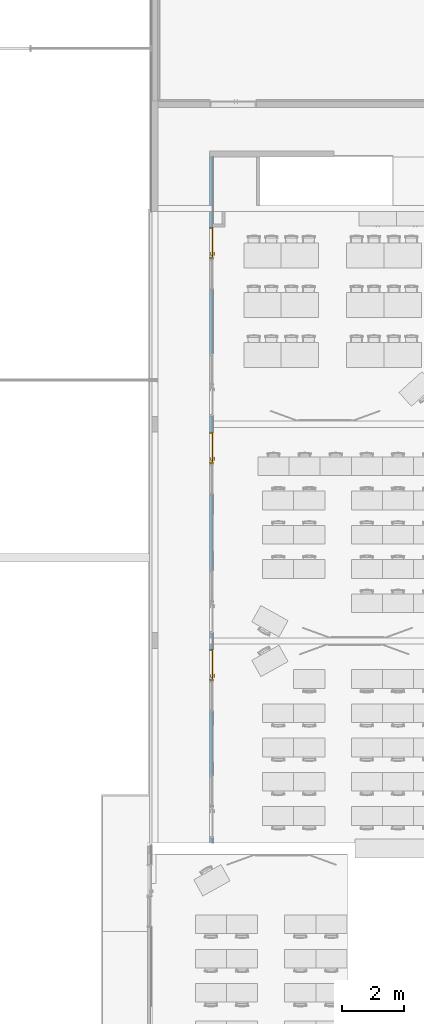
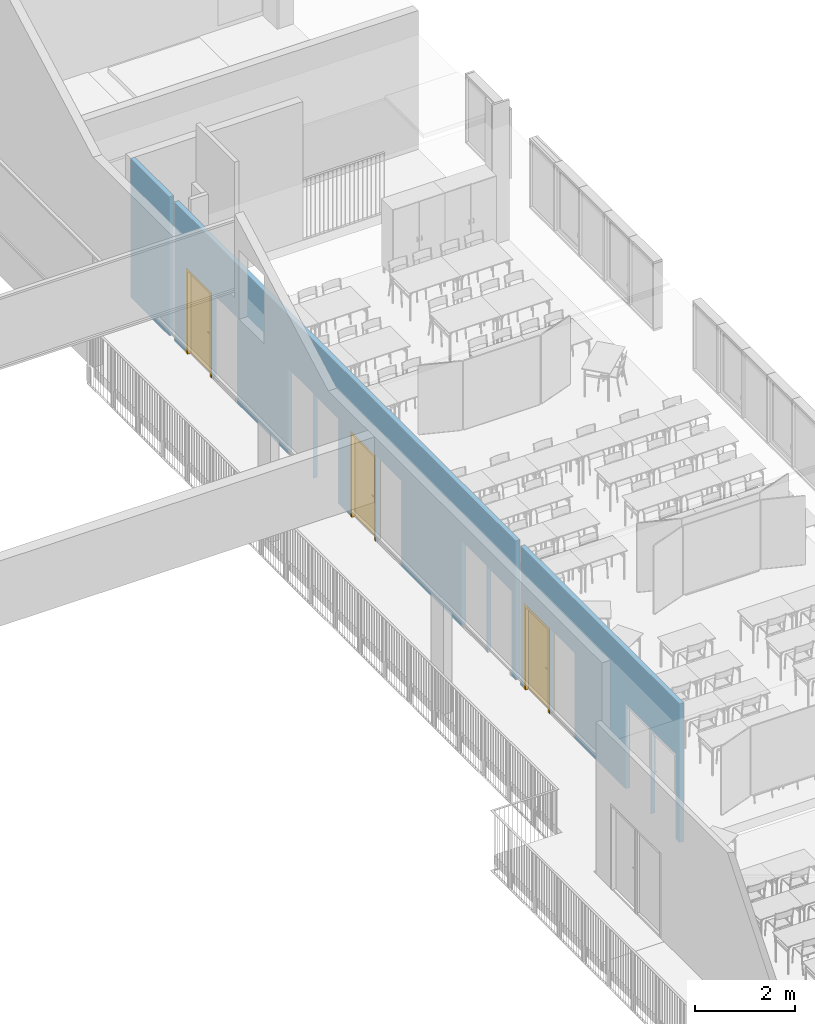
# One storey, part 31 of 44: 3 doors, 6 openings, plus 1 element that does not belong to this part.
"""IFC2X3 building model written with IfcOpenShell, lengths in centimetres."""

from ifc_helpers import new_model, entity, si_unit, converted_unit, derived_unit, direction, frame, frame_2d, origin, place, context, subcontext, project, spatial, rectangle, extrude, faceted_brep, source, transform, mapped, material, material_list, layer, layer_set, type_object, type_shapes, element, fill, save


model = new_model("IFC2X3")

# Units and contexts
model_context = context("Model", 3, precision=0.001, world=origin(), true_north=direction((6.12303176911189e-17, 1.0)))
body_context = subcontext(model_context, "Body", "Model", "MODEL_VIEW")
ifc_project = project(units=[si_unit("LENGTHUNIT", "METRE", prefix="CENTI"), si_unit("AREAUNIT", "SQUARE_METRE"), si_unit("VOLUMEUNIT", "CUBIC_METRE"), converted_unit("PLANEANGLEUNIT", "DEGREE", entity("IfcRatioMeasure", 0.0174532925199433), si_unit("PLANEANGLEUNIT", "RADIAN"), dimensions=[0, 0, 0, 0, 0, 0, 0]), si_unit("MASSUNIT", "GRAM", prefix="KILO"), si_unit("TIMEUNIT", "SECOND"), si_unit("FREQUENCYUNIT", "HERTZ"), si_unit("THERMODYNAMICTEMPERATUREUNIT", "DEGREE_CELSIUS"), derived_unit("THERMALTRANSMITTANCEUNIT", [(si_unit("MASSUNIT", "GRAM", prefix="KILO"), 1), (si_unit("THERMODYNAMICTEMPERATUREUNIT", "KELVIN"), -1), (si_unit("TIMEUNIT", "SECOND"), -3)]), derived_unit("VOLUMETRICFLOWRATEUNIT", [(si_unit("LENGTHUNIT", "METRE"), 3), (si_unit("TIMEUNIT", "SECOND"), -1)]), si_unit("ELECTRICCURRENTUNIT", "AMPERE"), si_unit("ELECTRICVOLTAGEUNIT", "VOLT"), si_unit("POWERUNIT", "WATT"), si_unit("FORCEUNIT", "NEWTON", prefix="KILO"), si_unit("ILLUMINANCEUNIT", "LUX"), si_unit("LUMINOUSFLUXUNIT", "LUMEN"), si_unit("LUMINOUSINTENSITYUNIT", "CANDELA"), derived_unit("USERDEFINED", [(si_unit("MASSUNIT", "GRAM", prefix="KILO"), -1), (si_unit("LENGTHUNIT", "METRE"), -2), (si_unit("TIMEUNIT", "SECOND"), 3), (si_unit("LUMINOUSFLUXUNIT", "LUMEN"), 1)]), derived_unit("LINEARVELOCITYUNIT", [(si_unit("LENGTHUNIT", "METRE"), 1), (si_unit("TIMEUNIT", "SECOND"), -1)]), si_unit("PRESSUREUNIT", "PASCAL"), derived_unit("USERDEFINED", [(si_unit("LENGTHUNIT", "METRE"), -2), (si_unit("MASSUNIT", "GRAM", prefix="KILO"), 1), (si_unit("TIMEUNIT", "SECOND"), -2)])], contexts=[model_context])

# Site, building, storey
site_placement = place(None, frame((8.62739174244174, -249.285249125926, 0.0)))
site = spatial("IfcSite", under=ifc_project, at=site_placement, Name="Default", CompositionType="ELEMENT")
building_placement = place(site_placement, origin())
building = spatial("IfcBuilding", under=site, at=building_placement, CompositionType="ELEMENT")
storey_placement = place(building_placement, frame((0.0, 0.0, 343.0)))
storey = spatial("IfcBuildingStorey", under=building, at=storey_placement, Name="R+1", CompositionType="ELEMENT", Elevation=343.0)

# Wall, openings, doors
ifc_material_1 = material(Name="Plâtre")
ifc_layer = layer(ifc_material_1, 10.0)
ifc_layer_set = layer_set([ifc_layer], Name="Mur de base:PLA 10")
wall_type = type_object("IfcWallType", Name="Mur de base:PLA 10", PredefinedType="STANDARD", material=ifc_layer_set)
wall_placement = place(storey_placement, frame((3224.90482780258, 2654.98020806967, 0.0), z_axis=(0.0, 0.0, 1.0), x_axis=(0.0, 1.0, 0.0)))
wall = element("IfcWall", 1, at=wall_placement, inside=storey, type_object=wall_type, Name="Mur de base:PLA 10", ObjectType="Mur de base:PLA 10", context=body_context, shape_type="Brep", body=[
    faceted_brep([(638.204985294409, -5.0, 0.0), (638.204985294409, -5.0, 340.0), (0.0, -5.0, 340.0), (0.0, -5.0, 0.0), (16.0, -5.0, 0.0), (16.0, -5.0, 207.499999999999), (116.0, -5.0, 207.499999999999), (116.0, -5.0, 0.0), (117.0, -5.0, 0.0), (117.0, -5.0, 208.499999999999), (217.0, -5.0, 208.499999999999), (217.0, -5.0, 0.0), (421.20498529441, -5.0, 0.0), (421.20498529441, -5.0, 208.499999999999), (521.20498529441, -5.0, 208.499999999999), (521.20498529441, -5.0, 0.0), (522.20498529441, -5.0, 0.0), (522.204985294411, -5.0, 207.499999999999), (622.20498529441, -5.0, 207.499999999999), (622.20498529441, -5.0, 0.0), (0.0, 5.0, 0.0), (16.0, 5.0, 0.0), (0.0, 5.0, 340.0), (638.204985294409, 5.0, 0.0), (638.204985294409, 5.0, 340.0), (16.0, 5.0, 207.499999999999), (116.0, 5.0, 207.499999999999), (116.0, 5.0, 0.0), (117.0, 5.0, 208.499999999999), (117.0, 5.0, 0.0), (217.0, 5.0, 208.499999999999), (217.0, 5.0, 0.0), (421.20498529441, 5.0, 208.499999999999), (421.20498529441, 5.0, 0.0), (521.20498529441, 5.0, 208.499999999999), (521.20498529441, 5.0, 0.0), (622.20498529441, 5.0, 207.499999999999), (622.20498529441, 5.0, 0.0), (522.204985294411, 5.0, 207.499999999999), (522.204985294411, 5.0, 0.0)], [[[0, 1, 2, 3, 4, 5, 6, 7, 8, 9, 10, 11, 12, 13, 14, 15, 16, 17, 18, 19]], [[3, 20, 21, 4]], [[20, 3, 2, 22]], [[1, 0, 23, 24]], [[25, 5, 4, 21]], [[5, 25, 26, 6]], [[6, 26, 27, 7]], [[28, 9, 8, 29]], [[9, 28, 30, 10]], [[10, 30, 31, 11]], [[32, 13, 12, 33]], [[34, 14, 13, 32]], [[14, 34, 35, 15]], [[2, 1, 24, 22]], [[18, 36, 37, 19]], [[36, 18, 17, 38]], [[38, 17, 16, 39]], [[7, 27, 29, 8]], [[11, 31, 33, 12]], [[15, 35, 39, 16]], [[23, 0, 19, 37]], [[25, 21, 20, 22, 24, 23, 37, 36, 38, 39, 35, 34, 32, 33, 31, 30, 28, 29, 27, 26]]]),
    faceted_brep([(2048.0, 5.0, 0.0), (2048.0, 5.0, 340.0), (2203.0, 5.0, 340.0), (2203.0, 5.0, 0.0), (2203.0, -5.0, 0.0), (2203.0, -5.0, 340.0), (2048.0, -5.0, 0.0), (2048.0, -5.0, 340.0)], [[[0, 1, 2, 3]], [[4, 3, 2, 5]], [[6, 7, 1, 0]], [[7, 5, 2, 1]], [[3, 4, 6, 0]], [[7, 6, 4, 5]]]),
    faceted_brep([(2028.0, -5.0, 340.0), (2028.0, -5.0, 0.0), (2028.0, 5.0, 0.0), (2028.0, 5.0, 340.0), (658.204985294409, -5.0, 0.0), (658.204985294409, -5.0, 340.0), (658.204985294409, 5.0, 340.0), (658.204985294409, 5.0, 0.0), (1371.20498529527, 5.0, 207.499999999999), (1371.20498529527, -5.0, 207.499999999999), (1371.20498529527, -5.0, 0.0), (1371.20498529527, 5.0, 0.0), (1471.20498529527, 5.0, 207.499999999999), (1471.20498529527, -5.0, 207.499999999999), (1471.20498529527, 5.0, 0.0), (1471.20498529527, -5.0, 0.0), (674.204985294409, 5.0, 207.499999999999), (674.204985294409, -5.0, 207.499999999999), (674.204985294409, -5.0, 0.0), (674.204985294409, 5.0, 0.0), (774.204985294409, 5.0, 207.499999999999), (774.204985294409, -5.0, 207.499999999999), (774.204985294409, 5.0, 0.0), (774.204985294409, -5.0, 0.0), (1472.20498529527, 5.0, 208.499999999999), (1472.20498529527, -5.0, 208.499999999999), (1472.20498529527, -5.0, 0.0), (1472.20498529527, 5.0, 0.0), (1572.20498529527, 5.0, 208.499999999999), (1572.20498529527, -5.0, 208.499999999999), (1572.20498529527, 5.0, 0.0), (1572.20498529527, -5.0, 0.0), (775.20498529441, 5.0, 208.499999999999), (775.20498529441, -5.0, 208.499999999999), (775.20498529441, -5.0, 0.0), (775.20498529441, 5.0, 0.0), (875.20498529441, 5.0, 208.499999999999), (875.20498529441, -5.0, 208.499999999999), (875.20498529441, 5.0, 0.0), (875.20498529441, -5.0, 0.0), (1118.20498529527, 5.0, 208.499999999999), (1118.20498529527, -5.0, 208.499999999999), (1118.20498529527, -5.0, 0.0), (1118.20498529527, 5.0, 0.0), (1218.20498529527, 5.0, 208.499999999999), (1218.20498529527, -5.0, 208.499999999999), (1218.20498529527, 5.0, 0.0), (1218.20498529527, -5.0, 0.0), (1776.50000006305, 5.0, 208.499999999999), (1776.50000006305, -5.0, 208.499999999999), (1776.50000006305, -5.0, 0.0), (1776.50000006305, 5.0, 0.0), (1876.50000006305, 5.0, 208.499999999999), (1876.50000006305, -5.0, 208.499999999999), (1876.50000006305, 5.0, 0.0), (1876.50000006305, -5.0, 0.0), (1319.20498529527, -5.0, 207.499999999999), (1319.20498529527, 5.0, 207.499999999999), (1319.20498529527, 5.0, 0.0), (1319.20498529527, -5.0, 0.0), (1219.20498529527, -5.0, 207.499999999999), (1219.20498529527, 5.0, 207.499999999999), (1219.20498529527, -5.0, 0.0), (1219.20498529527, 5.0, 0.0), (1978.0, -5.0, 0.0), (1978.0, -5.0, 207.499999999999), (1978.0, 5.0, 207.499999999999), (1978.0, 5.0, 0.0), (1878.0, -5.0, 207.499999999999), (1878.0, 5.0, 207.499999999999), (1878.0, -5.0, 0.0), (1878.0, 5.0, 0.0), (1335.20498529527, -5.0, 340.0), (1355.20498529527, -5.0, 340.0), (1355.20498529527, -5.0, 0.0), (1335.20498529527, -5.0, 0.0)], [[[0, 1, 2, 3]], [[4, 5, 6, 7]], [[8, 9, 10, 11]], [[9, 8, 12, 13]], [[13, 12, 14, 15]], [[16, 17, 18, 19]], [[17, 16, 20, 21]], [[21, 20, 22, 23]], [[24, 25, 26, 27]], [[25, 24, 28, 29]], [[29, 28, 30, 31]], [[32, 33, 34, 35]], [[33, 32, 36, 37]], [[37, 36, 38, 39]], [[40, 41, 42, 43]], [[44, 45, 41, 40]], [[45, 44, 46, 47]], [[48, 49, 50, 51]], [[52, 53, 49, 48]], [[53, 52, 54, 55]], [[56, 57, 58, 59]], [[57, 56, 60, 61]], [[61, 60, 62, 63]], [[64, 65, 66, 67]], [[65, 68, 69, 66]], [[68, 70, 71, 69]], [[5, 72, 73, 0, 3, 6]], [[4, 7, 19, 18]], [[23, 22, 35, 34]], [[39, 38, 43, 42]], [[47, 46, 63, 62]], [[15, 14, 27, 26]], [[31, 30, 51, 50]], [[55, 54, 71, 70]], [[11, 10, 74, 75, 59, 58]], [[2, 1, 64, 67]], [[3, 2, 67, 66, 69, 71, 54, 52, 48, 51, 30, 28, 24, 27, 14, 12, 8, 11, 58, 57, 61, 63, 46, 44, 40, 43, 38, 36, 32, 35, 22, 20, 16, 19, 7, 6]], [[1, 0, 73, 72, 5, 4, 18, 17, 21, 23, 34, 33, 37, 39, 42, 41, 45, 47, 62, 60, 56, 59, 75, 74, 10, 9, 13, 15, 26, 25, 29, 31, 50, 49, 53, 55, 70, 68, 65, 64]]]),
])
opening_1_placement = place(wall_placement, frame((1471.20498529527, 5.0, 0.0)))
element("IfcOpeningElement", 2, at=opening_1_placement, cuts=wall, Name="Simple(R)_bois_mu:93 x 204 cm:1", ObjectType="Opening", context=body_context, shape_type="SweptSolid", body=[
    extrude(rectangle(XDim=207.499999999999, YDim=99.9999999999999, at=frame_2d((103.749999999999, 50.0), x_axis=(1.0, 0.0))), frame((0.0, 0.0, 0.0), z_axis=(0.0, -1.0, 0.0), x_axis=(0.0, 0.0, 1.0)), (0.0, 0.0, 1.0), 10.0),
])
opening_2_placement = place(wall_placement, frame((116.0, 5.0, 0.0)))
element("IfcOpeningElement", 3, at=opening_2_placement, cuts=wall, Name="Simple(R)_bois_mu:93 x 204 cm:1", ObjectType="Opening", context=body_context, shape_type="SweptSolid", body=[
    extrude(rectangle(XDim=207.499999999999, YDim=99.9999999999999, at=frame_2d((103.749999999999, 50.0), x_axis=(1.0, 0.0))), frame((0.0, 0.0, 0.0), z_axis=(0.0, -1.0, 0.0), x_axis=(0.0, 0.0, 1.0)), (0.0, 0.0, 1.0), 10.0),
])
opening_3_placement = place(wall_placement, frame((774.204985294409, 5.0, 0.0)))
element("IfcOpeningElement", 4, at=opening_3_placement, cuts=wall, Name="Simple(R)_bois_mu:93 x 204 cm:1", ObjectType="Opening", context=body_context, shape_type="SweptSolid", body=[
    extrude(rectangle(XDim=207.499999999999, YDim=99.9999999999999, at=frame_2d((103.749999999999, 50.0), x_axis=(1.0, 0.0))), frame((0.0, 0.0, 0.0), z_axis=(0.0, -1.0, 0.0), x_axis=(0.0, 0.0, 1.0)), (0.0, 0.0, 1.0), 10.0),
])
opening_4_placement = place(wall_placement, frame((622.204985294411, 5.0, 0.0)))
opening_4 = element("IfcOpeningElement", 5, at=opening_4_placement, cuts=wall, Name="Simple(R)_bois_mu:93 x 204 cm:1", ObjectType="Opening", context=body_context, shape_type="SweptSolid", body=[
    extrude(rectangle(XDim=207.499999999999, YDim=99.9999999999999, at=frame_2d((103.749999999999, 50.0), x_axis=(1.0, 0.0))), frame((0.0, 0.0, 0.0), z_axis=(0.0, -1.0, 0.0), x_axis=(0.0, 0.0, 1.0)), (0.0, 0.0, 1.0), 10.0),
])
opening_5_placement = place(wall_placement, frame((1319.20498529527, 5.0, 0.0)))
opening_5 = element("IfcOpeningElement", 6, at=opening_5_placement, cuts=wall, Name="Simple(R)_bois_mu:93 x 204 cm:1", ObjectType="Opening", context=body_context, shape_type="SweptSolid", body=[
    extrude(rectangle(XDim=207.499999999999, YDim=99.9999999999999, at=frame_2d((103.749999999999, 50.0), x_axis=(1.0, 0.0))), frame((0.0, 0.0, 0.0), z_axis=(0.0, -1.0, 0.0), x_axis=(0.0, 0.0, 1.0)), (0.0, 0.0, 1.0), 10.0),
])
opening_6_placement = place(wall_placement, frame((1978.0, 5.0, 0.0)))
opening_6 = element("IfcOpeningElement", 7, at=opening_6_placement, cuts=wall, Name="Simple(R)_bois_mu:93 x 204 cm:1", ObjectType="Opening", context=body_context, shape_type="SweptSolid", body=[
    extrude(rectangle(XDim=207.499999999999, YDim=99.9999999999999, at=frame_2d((103.749999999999, 49.9999999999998), x_axis=(1.0, 0.0))), frame((0.0, 0.0, 0.0), z_axis=(0.0, -1.0, 0.0), x_axis=(0.0, 0.0, 1.0)), (0.0, 0.0, 1.0), 10.0),
])
ifc_material_2 = material(Name="Porte - Poignée")
ifc_material_3 = material(Name="Porte - Cadre")
ifc_material_4 = material(Name="Porte - Panneau")
ifc_material_list_1 = material_list([ifc_material_2, ifc_material_3, ifc_material_4])
ifc_material_list_2 = material_list([ifc_material_2, ifc_material_3, ifc_material_4])
door_style = type_object("IfcDoorStyle", Name="93 x 204 cm", ConstructionType="NOTDEFINED", OperationType="SINGLE_SWING_RIGHT", ParameterTakesPrecedence=False, Sizeable=False, material=ifc_material_list_2)
shared_shape = source(origin(), body_context, "Body", "Brep", [
    faceted_brep([(8.79747013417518, 3.69999999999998, 100.778044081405), (8.3999999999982, 3.69999999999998, 100.699999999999), (8.39999999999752, 3.69999999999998, 99.2999999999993), (8.79747013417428, 3.69999999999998, 99.2219559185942), (9.20252986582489, 3.69999999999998, 99.2219559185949), (9.60000000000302, 3.69999999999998, 99.3000000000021), (9.60000000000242, 3.69999999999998, 100.699999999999), (9.2025298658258, 3.69999999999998, 100.778044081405), (9.60000000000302, 5.94852045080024, 99.3000000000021), (9.60000000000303, 5.94852045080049, 100.699999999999), (9.20252986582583, 6.1131579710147, 100.778044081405), (10.5838906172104, 7.49451872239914, 100.778044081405), (10.4161093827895, 7.89957845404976, 100.778044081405), (8.79747013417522, 6.2809392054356, 100.778044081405), (19.5684749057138, 6.84673156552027, 100.778044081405), (19.8548953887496, 7.13315204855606, 100.778044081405), (19.0884689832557, 7.89957845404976, 100.778044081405), (18.9206877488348, 7.49451872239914, 100.778044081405), (8.39999999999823, 6.44557672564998, 100.699999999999), (8.3999999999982, 6.44557672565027, 99.2999999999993), (8.79747013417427, 6.28093920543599, 99.2219559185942), (10.4161093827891, 7.8995784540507, 99.2219559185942), (10.58389061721, 7.49451872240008, 99.2219559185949), (9.20252986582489, 6.11315797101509, 99.2219559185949), (19.8548953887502, 7.13315204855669, 99.2219559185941), (19.5684749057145, 6.84673156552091, 99.2219559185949), (18.9206877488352, 7.49451872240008, 99.2219559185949), (19.088468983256, 7.8995784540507, 99.2219559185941), (10.7485281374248, 7.09704858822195, 99.3000000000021), (10.748528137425, 7.09704858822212, 100.699999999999), (10.2514718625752, 8.29704858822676, 100.699999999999), (10.2514718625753, 8.29704858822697, 99.2999999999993), (14.7522904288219, 7.09704858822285, 99.3000000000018), (18.7560502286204, 7.09704858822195, 99.3000000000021), (18.7560502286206, 7.09704858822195, 100.699999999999), (14.7522891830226, 7.09704858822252, 100.699999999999), (14.7522891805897, 7.71249275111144, 100.787811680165), (19.25310650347, 8.29704858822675, 100.699999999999), (15.2600577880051, 8.29704858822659, 100.699999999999), (19.2531065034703, 8.29704858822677, 99.2999999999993), (14.2445206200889, 8.29704858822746, 99.2999999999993), (14.7522892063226, 7.71249274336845, 99.2121883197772), (19.2874210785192, 6.56567773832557, 99.3000000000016), (20.1359492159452, 7.41420587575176, 99.2999999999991), (20.135949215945, 7.4142058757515, 100.699999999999), (19.287421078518, 6.5656777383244, 100.699999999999)], [[[0, 1, 2, 3, 4, 5, 6, 7]], [[6, 5, 8, 9]], [[9, 10, 7, 6]], [[10, 11, 12, 13, 0, 7]], [[14, 15, 16, 17]], [[13, 18, 1, 0]], [[2, 1, 18, 19]], [[19, 20, 3, 2]], [[20, 21, 22, 23, 4, 3]], [[24, 25, 26, 27]], [[23, 8, 5, 4]], [[9, 8, 28, 29]], [[29, 11, 10, 9]], [[12, 30, 18, 13]], [[19, 18, 30, 31]], [[31, 21, 20, 19]], [[22, 28, 8, 23]], [[29, 28, 32, 33, 34, 35]], [[11, 35, 36]], [[16, 37, 38]], [[30, 12, 38]], [[38, 12, 36]], [[36, 35, 17]], [[17, 16, 36]], [[35, 11, 29]], [[34, 17, 35]], [[11, 36, 12]], [[38, 36, 16]], [[31, 30, 38, 37, 39, 40]], [[40, 41, 21]], [[41, 40, 27]], [[21, 31, 40]], [[39, 27, 40]], [[41, 32, 22]], [[22, 21, 41]], [[26, 32, 41]], [[28, 22, 32]], [[32, 26, 33]], [[26, 41, 27]], [[42, 25, 24, 43, 44, 15, 14, 45]], [[34, 33, 42, 45]], [[45, 14, 17, 34]], [[15, 44, 37, 16]], [[39, 37, 44, 43]], [[43, 24, 27, 39]], [[25, 42, 33, 26]]]),
    faceted_brep([(8.79747013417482, -1.30000000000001, 100.778044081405), (9.20252986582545, -1.30000000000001, 100.778044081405), (9.6000000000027, -1.30000000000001, 100.699999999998), (9.60000000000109, -1.30000000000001, 99.3000000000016), (9.20252986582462, -1.30000000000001, 99.2219559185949), (8.79747013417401, -1.30000000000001, 99.2219559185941), (8.39999999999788, -1.30000000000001, 99.2999999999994), (8.39999999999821, -1.30000000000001, 100.699999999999), (8.39999999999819, -4.06509507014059, 100.699999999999), (8.7974701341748, -3.90045754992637, 100.778044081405), (10.402358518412, -5.50534593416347, 100.778044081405), (10.5701397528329, -5.10028620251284, 100.778044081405), (9.20252986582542, -3.73267631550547, 100.778044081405), (19.852181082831, -4.73891952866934, 100.778044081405), (19.5657605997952, -4.4524990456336, 100.778044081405), (18.9179734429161, -5.10028620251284, 100.778044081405), (19.085754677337, -5.50534593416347, 100.778044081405), (9.60000000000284, -3.56803879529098, 100.699999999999), (9.6000000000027, -3.56803879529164, 99.3000000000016), (9.20252986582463, -3.7326763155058, 99.2219559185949), (10.5701397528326, -5.10028620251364, 99.2219559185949), (10.4023585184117, -5.50534593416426, 99.2219559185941), (8.79747013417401, -3.9004575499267, 99.2219559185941), (19.5657605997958, -4.45249904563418, 99.2219559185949), (19.8521810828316, -4.73891952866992, 99.2219559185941), (19.0857546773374, -5.50534593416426, 99.2219559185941), (18.9179734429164, -5.10028620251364, 99.2219559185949), (8.39999999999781, -4.06509507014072, 99.2999999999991), (10.2377209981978, -5.90281606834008, 100.699999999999), (10.7347772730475, -4.70281606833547, 100.699999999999), (10.7347772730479, -4.70281606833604, 99.3000000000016), (10.2377209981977, -5.90281606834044, 99.2999999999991), (14.2307697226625, -5.90281606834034, 100.699999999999), (14.7440566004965, -5.31828027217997, 100.787811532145), (19.2503921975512, -5.90281606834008, 100.699999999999), (14.7440565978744, -4.70281606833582, 100.699999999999), (18.7533359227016, -4.70281606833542, 100.699999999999), (18.7533359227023, -4.70281606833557, 99.3000000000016), (14.7440563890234, -4.70281606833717, 99.3000000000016), (14.744056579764, -5.31828027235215, 99.2121884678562), (19.2503921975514, -5.90281606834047, 99.2999999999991), (15.2573433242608, -5.90281606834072, 99.2999999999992), (19.2847067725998, -4.1714452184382, 100.699999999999), (20.1332349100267, -5.01997335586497, 100.699999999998), (20.1332349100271, -5.01997335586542, 99.2999999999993), (19.2847067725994, -4.17144521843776, 99.3000000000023)], [[[0, 1, 2, 3, 4, 5, 6, 7]], [[8, 9, 0, 7]], [[9, 10, 11, 12, 1, 0]], [[13, 14, 15, 16]], [[12, 17, 2, 1]], [[3, 2, 17, 18]], [[18, 19, 4, 3]], [[19, 20, 21, 22, 5, 4]], [[23, 24, 25, 26]], [[22, 27, 6, 5]], [[7, 6, 27, 8]], [[28, 10, 9, 8]], [[11, 29, 17, 12]], [[18, 17, 29, 30]], [[30, 20, 19, 18]], [[21, 31, 27, 22]], [[8, 27, 31, 28]], [[32, 33, 10]], [[33, 32, 16]], [[10, 28, 32]], [[34, 16, 32]], [[33, 35, 11]], [[11, 10, 33]], [[15, 35, 33]], [[29, 11, 35]], [[35, 15, 36]], [[15, 33, 16]], [[30, 29, 35, 36, 37, 38]], [[20, 38, 39]], [[25, 40, 41]], [[31, 21, 41]], [[41, 21, 39]], [[39, 38, 26]], [[26, 25, 39]], [[38, 20, 30]], [[37, 26, 38]], [[20, 39, 21]], [[41, 39, 25]], [[28, 31, 41, 40, 34, 32]], [[42, 14, 13, 43, 44, 24, 23, 45]], [[43, 13, 16, 34]], [[14, 42, 36, 15]], [[37, 36, 42, 45]], [[45, 23, 26, 37]], [[24, 44, 40, 25]], [[34, 40, 44, 43]]]),
    faceted_brep([(10.03527618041, 3.19999999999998, 86.6003983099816), (11.0, 3.19999999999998, 87.0), (11.0, 3.19999999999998, 108.0), (10.03527618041, 3.19999999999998, 108.399601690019), (9.0, 3.19999999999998, 108.535898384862), (7.96472381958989, 3.19999999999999, 108.399601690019), (7.0, 3.19999999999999, 108.0), (7.0, 3.19999999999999, 87.0), (7.96472381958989, 3.19999999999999, 86.6003983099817), (9.0, 3.19999999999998, 86.4641016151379), (10.03527618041, 3.69999999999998, 108.399601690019), (11.0, 3.69999999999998, 108.0), (11.0, 3.69999999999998, 87.0), (10.03527618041, 3.69999999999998, 86.6003983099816), (9.0, 3.69999999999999, 86.4641016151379), (7.96472381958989, 3.69999999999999, 86.6003983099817), (7.0, 3.69999999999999, 87.0), (7.0, 3.69999999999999, 108.0), (7.96472381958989, 3.69999999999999, 108.399601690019), (9.0, 3.69999999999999, 108.535898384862)], [[[0, 1, 2, 3, 4, 5, 6, 7, 8, 9]], [[10, 11, 12, 13, 14, 15, 16, 17, 18, 19]], [[11, 10, 3, 2]], [[3, 10, 19, 4]], [[19, 18, 5, 4]], [[18, 17, 6, 5]], [[7, 6, 17, 16]], [[16, 15, 8, 7]], [[8, 15, 14, 9]], [[14, 13, 0, 9]], [[13, 12, 1, 0]], [[2, 1, 12, 11]]]),
    faceted_brep([(10.03527618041, -1.30000000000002, 86.6003983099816), (11.0, -1.30000000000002, 87.0), (11.0, -1.30000000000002, 108.0), (10.03527618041, -1.30000000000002, 108.399601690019), (9.0, -1.30000000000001, 108.535898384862), (7.9647238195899, -1.30000000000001, 108.399601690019), (7.0, -1.30000000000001, 108.0), (7.0, -1.30000000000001, 87.0), (7.96472381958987, -1.30000000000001, 86.6003983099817), (9.0, -1.30000000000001, 86.4641016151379), (10.03527618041, -0.800000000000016, 108.399601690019), (11.0, -0.800000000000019, 108.0), (11.0, -0.800000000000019, 87.0), (10.03527618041, -0.800000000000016, 86.6003983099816), (9.0, -0.800000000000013, 86.4641016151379), (7.96472381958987, -0.800000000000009, 86.6003983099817), (7.0, -0.800000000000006, 87.0), (7.0, -0.800000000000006, 108.0), (7.9647238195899, -0.800000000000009, 108.399601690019), (9.0, -0.800000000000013, 108.535898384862)], [[[0, 1, 2, 3, 4, 5, 6, 7, 8, 9]], [[10, 11, 12, 13, 14, 15, 16, 17, 18, 19]], [[16, 15, 8, 7]], [[8, 15, 14, 9]], [[14, 13, 0, 9]], [[13, 12, 1, 0]], [[2, 1, 12, 11]], [[11, 10, 3, 2]], [[3, 10, 19, 4]], [[19, 18, 5, 4]], [[18, 17, 6, 5]], [[7, 6, 17, 16]]]),
    faceted_brep([(0.0, 0.0, 0.0), (0.0, 10.0, 0.0), (-1.0, 10.0, 0.0), (-1.0, 10.8000000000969, 0.0), (4.49999999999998, 10.8000000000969, 0.0), (4.49999999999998, 3.2, 0.0), (3.49999999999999, 3.2, 0.0), (3.49999999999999, -0.799999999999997, 0.0), (-1.0, -0.799999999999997, 0.0), (-1.0, 0.0, 0.0), (0.0, 0.0, 207.499999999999), (0.0, 10.0, 207.499999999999), (100.0, 10.0, 207.499999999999), (100.0, 10.0, 0.0), (101.0, 10.0, 0.0), (101.0, 10.0, 208.499999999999), (-1.0, 10.0, 208.499999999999), (-1.0, 10.8000000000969, 208.499999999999), (101.0, 10.8000000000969, 208.499999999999), (101.0, 10.8000000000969, 0.0), (95.5, 10.8000000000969, 0.0), (95.5, 10.8000000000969, 203.0), (4.49999999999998, 10.8000000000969, 203.0), (4.49999999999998, 3.2, 203.0), (95.5, 3.2, 203.0), (95.5, 3.2, 0.0), (96.5, 3.2, 0.0), (96.5, 3.2, 204.0), (3.49999999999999, 3.2, 204.0), (3.49999999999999, -0.799999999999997, 204.0), (96.5, -0.799999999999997, 204.0), (96.5, -0.799999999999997, 0.0), (101.0, -0.799999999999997, 0.0), (101.0, -0.799999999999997, 208.499999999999), (-1.0, -0.799999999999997, 208.499999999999), (-1.0, 0.0, 208.499999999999), (101.0, 0.0, 208.499999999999), (101.0, 0.0, 0.0), (100.0, 0.0, 0.0), (100.0, 0.0, 207.499999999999)], [[[0, 1, 2, 3, 4, 5, 6, 7, 8, 9]], [[1, 0, 10, 11]], [[2, 1, 11, 12, 13, 14, 15, 16]], [[3, 2, 16, 17]], [[4, 3, 17, 18, 19, 20, 21, 22]], [[5, 4, 22, 23]], [[6, 5, 23, 24, 25, 26, 27, 28]], [[7, 6, 28, 29]], [[8, 7, 29, 30, 31, 32, 33, 34]], [[9, 8, 34, 35]], [[0, 9, 35, 36, 37, 38, 39, 10]], [[12, 39, 38, 13]], [[38, 37, 32, 31, 26, 25, 20, 19, 14, 13]], [[18, 15, 14, 19]], [[24, 21, 20, 25]], [[30, 27, 26, 31]], [[36, 33, 32, 37]], [[11, 10, 39, 12]], [[17, 16, 15, 18]], [[23, 22, 21, 24]], [[29, 28, 27, 30]], [[35, 34, 33, 36]]]),
    faceted_brep([(3.49999999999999, -0.799999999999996, 204.0), (3.49999999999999, -0.799999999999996, 0.0), (96.5, -0.799999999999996, 0.0), (96.5, -0.799999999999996, 204.0), (3.49999999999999, 3.2, 204.0), (96.5, 3.2, 204.0), (96.5, 3.2, 0.0), (3.49999999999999, 3.2, 0.0)], [[[0, 1, 2, 3]], [[4, 5, 6, 7]], [[1, 0, 4, 7]], [[2, 1, 7, 6]], [[3, 2, 6, 5]], [[0, 3, 5, 4]]]),
])
type_shapes(door_style, [shared_shape])
door_1_placement = place(opening_4_placement, frame((-100.0, -10.0, 0.0)))
door_1 = element("IfcDoor", 8, at=door_1_placement, inside=storey, type_object=door_style, material=ifc_material_list_1, Name="Simple(R)_bois_mu:93 x 204 cm", ObjectType="93 x 204 cm", OverallHeight=207.499999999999, OverallWidth=99.9999999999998, context=body_context, shape_type="MappedRepresentation", body=[
    mapped(shared_shape, transform((0.0, 0.0, 0.0), scale=1.0)),
])
fill(opening_4, door_1)
ifc_material_list_3 = material_list([ifc_material_2, ifc_material_3, ifc_material_4])
door_2_placement = place(opening_5_placement, frame((-100.0, -10.0, 0.0)))
door_2 = element("IfcDoor", 9, at=door_2_placement, inside=storey, type_object=door_style, material=ifc_material_list_3, Name="Simple(R)_bois_mu:93 x 204 cm", ObjectType="93 x 204 cm", OverallHeight=207.499999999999, OverallWidth=99.9999999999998, context=body_context, shape_type="MappedRepresentation", body=[
    mapped(shared_shape, transform((0.0, 0.0, 0.0), scale=1.0)),
])
fill(opening_5, door_2)
ifc_material_list_4 = material_list([ifc_material_2, ifc_material_3, ifc_material_4])
door_3_placement = place(opening_6_placement, frame((-100.0, -10.0, 0.0)))
door_3 = element("IfcDoor", 10, at=door_3_placement, inside=storey, type_object=door_style, material=ifc_material_list_4, Name="Simple(R)_bois_mu:93 x 204 cm", ObjectType="93 x 204 cm", OverallHeight=207.499999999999, OverallWidth=99.9999999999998, context=body_context, shape_type="MappedRepresentation", body=[
    mapped(shared_shape, transform((0.0, 0.0, 0.0), scale=1.0)),
])
fill(opening_6, door_3)

save(model, "model.ifc")
